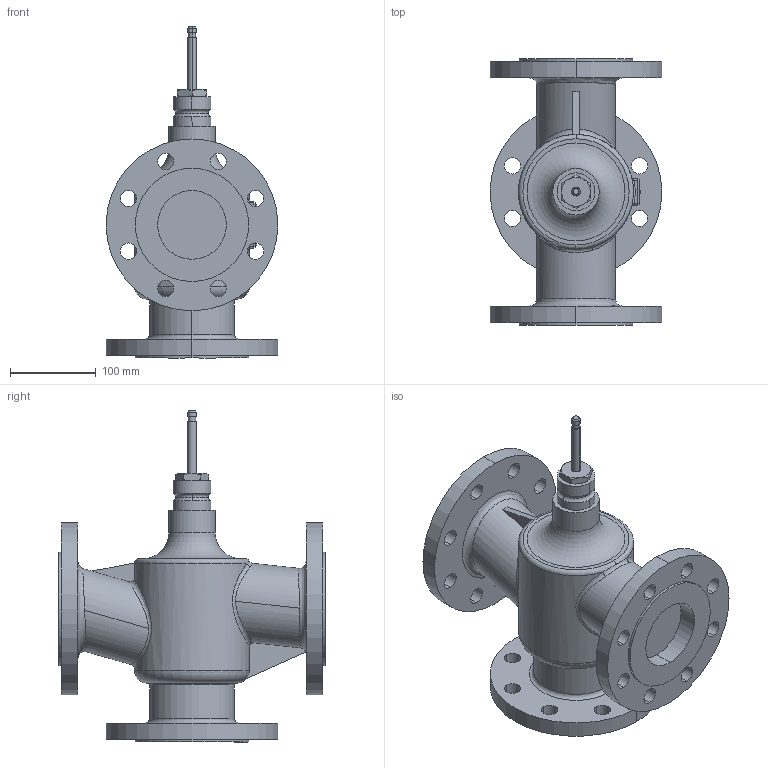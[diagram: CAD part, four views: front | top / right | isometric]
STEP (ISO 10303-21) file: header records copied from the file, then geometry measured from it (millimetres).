
FILE_DESCRIPTION(/* description */ (''),/* implementation_level */ '2;1');
FILE_NAME(/* name */ 'RAS_021824_00.stp',/* time_stamp */ '2012-11-07T12:02:20+01:00',/* author */ (''),/* organization */ (''),/* preprocessor_version */ 'ST-DEVELOPER v11',/* originating_system */ 'SIEMENS UGS NX 6.0',/* authorisation */ '');
FILE_SCHEMA (('AUTOMOTIVE_DESIGN { 1 0 10303 214 1 1 1 1 }'));
Length unit declared in the file: millimetre
Products named in the file (1): Ront9C9842oe
Bounding box: 200 x 310 x 386.5 mm (x, y, z)
Volume: 5056498.7 mm3; surface area: 376634.1 mm2
Topology: 1 solids, 2 shells, 175 faces, 446 edges, 291 vertices
Faces by surface type: cylinder 98, plane 44, torus 15, bspline 10, cone 6, sphere 2
Full cylindrical faces by diameter (mm): 54 x1
Entity records: 7877 total; most frequent: CARTESIAN_POINT 3537, DIRECTION 929, ORIENTED_EDGE 870, EDGE_CURVE 435, AXIS2_PLACEMENT_3D 394, VERTEX_POINT 286, EDGE_LOOP 245, CIRCLE 225
